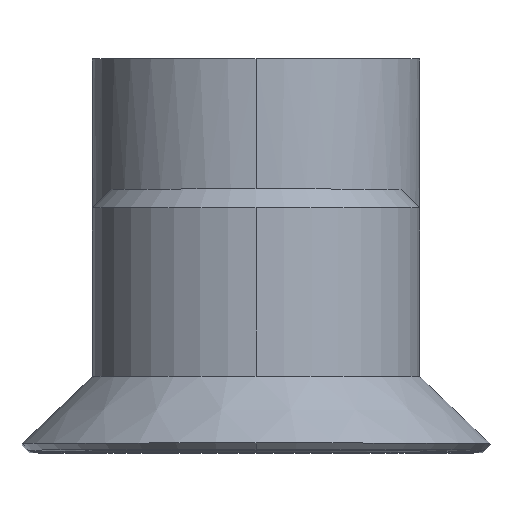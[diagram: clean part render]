
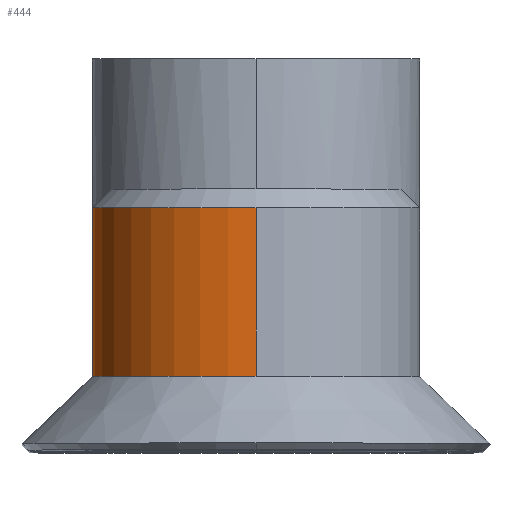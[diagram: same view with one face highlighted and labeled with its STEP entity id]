
A CAD part, top view. The second image highlights one B-rep face of the part: STEP entity #444.
In plain terms, the highlighted cylindrical face has radius 8.75 mm (diameter 17.5 mm), a partial arc.
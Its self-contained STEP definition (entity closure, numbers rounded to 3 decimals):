
#6 = CARTESIAN_POINT ( 'NONE',  ( -8.75, 4., 25. ) ) ;
#13 = EDGE_CURVE ( 'NONE', #766, #1498, #834, .T. ) ;
#191 = DIRECTION ( 'NONE',  ( 0., -1., 0. ) ) ;
#281 = CARTESIAN_POINT ( 'NONE',  ( 0., 4., 25. ) ) ;
#291 = CIRCLE ( 'NONE', #1189, 8.75 ) ;
#326 = EDGE_CURVE ( 'NONE', #1498, #1070, #533, .T. ) ;
#347 = EDGE_CURVE ( 'NONE', #1070, #988, #1426, .T. ) ;
#350 = CARTESIAN_POINT ( 'NONE',  ( 0., 13., 33.75 ) ) ;
#373 = ORIENTED_EDGE ( 'NONE', *, *, #1458, .F. ) ;
#376 = AXIS2_PLACEMENT_3D ( 'NONE', #1088, #1039, #1430 ) ;
#444 = ADVANCED_FACE ( 'NONE', ( #1356 ), #999, .T. ) ;
#533 = CIRCLE ( 'NONE', #376, 8.75 ) ;
#599 = CARTESIAN_POINT ( 'NONE',  ( 0., 4., 33.75 ) ) ;
#631 = AXIS2_PLACEMENT_3D ( 'NONE', #670, #1075, #1111 ) ;
#670 = CARTESIAN_POINT ( 'NONE',  ( 0., 4., 25. ) ) ;
#674 = ORIENTED_EDGE ( 'NONE', *, *, #13, .T. ) ;
#752 = DIRECTION ( 'NONE',  ( 0., 1., 0. ) ) ;
#766 = VERTEX_POINT ( 'NONE', #599 ) ;
#793 = VECTOR ( 'NONE', #191, 1000. ) ;
#834 = LINE ( 'NONE', #1508, #1428 ) ;
#984 = ORIENTED_EDGE ( 'NONE', *, *, #326, .T. ) ;
#988 = VERTEX_POINT ( 'NONE', #6 ) ;
#999 = CYLINDRICAL_SURFACE ( 'NONE', #631, 8.75 ) ;
#1039 = DIRECTION ( 'NONE',  ( 0., -1., 0. ) ) ;
#1070 = VERTEX_POINT ( 'NONE', #1244 ) ;
#1075 = DIRECTION ( 'NONE',  ( 0., 1., 0. ) ) ;
#1088 = CARTESIAN_POINT ( 'NONE',  ( 0., 13., 25. ) ) ;
#1111 = DIRECTION ( 'NONE',  ( 0., 0., 1. ) ) ;
#1156 = DIRECTION ( 'NONE',  ( 0., 0., 1. ) ) ;
#1189 = AXIS2_PLACEMENT_3D ( 'NONE', #281, #1331, #1156 ) ;
#1244 = CARTESIAN_POINT ( 'NONE',  ( -8.75, 13., 25. ) ) ;
#1308 = ORIENTED_EDGE ( 'NONE', *, *, #347, .T. ) ;
#1331 = DIRECTION ( 'NONE',  ( 0., -1., 0. ) ) ;
#1356 = FACE_OUTER_BOUND ( 'NONE', #1381, .T. ) ;
#1381 = EDGE_LOOP ( 'NONE', ( #373, #674, #984, #1308 ) ) ;
#1426 = LINE ( 'NONE', #1465, #793 ) ;
#1428 = VECTOR ( 'NONE', #752, 1000. ) ;
#1430 = DIRECTION ( 'NONE',  ( 0., 0., -1. ) ) ;
#1458 = EDGE_CURVE ( 'NONE', #766, #988, #291, .T. ) ;
#1465 = CARTESIAN_POINT ( 'NONE',  ( -8.75, 8.5, 25. ) ) ;
#1498 = VERTEX_POINT ( 'NONE', #350 ) ;
#1508 = CARTESIAN_POINT ( 'NONE',  ( 0., 4., 33.75 ) ) ;
